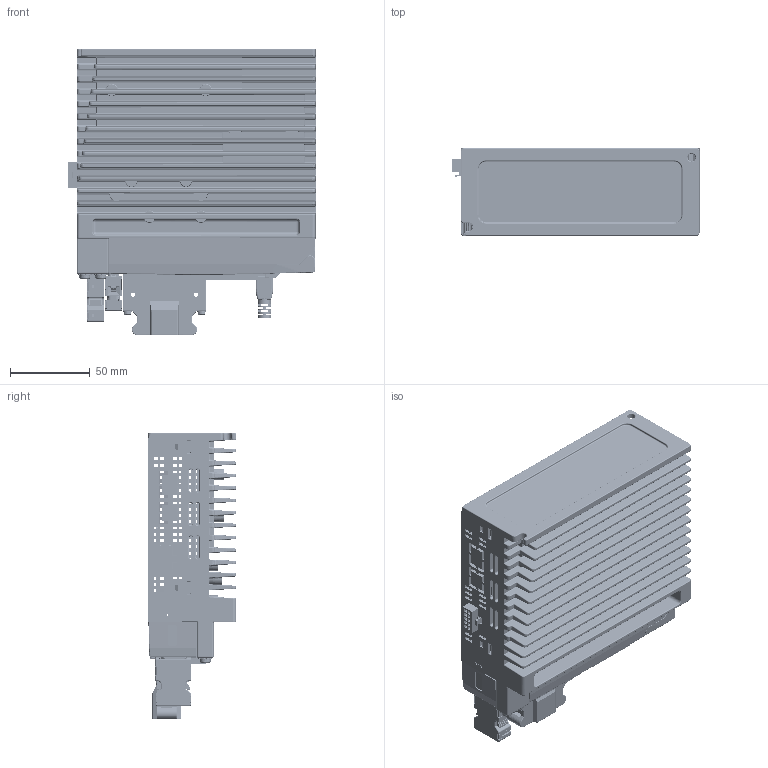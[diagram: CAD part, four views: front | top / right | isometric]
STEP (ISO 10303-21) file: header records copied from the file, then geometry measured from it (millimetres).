
FILE_DESCRIPTION((''),'2;1');
FILE_NAME('M56S-400W_ASM','2025-03-20T14:17:44',('ms27526'),(''),'CREO PARAMETRIC BY PTC INC, 2018100','CREO PARAMETRIC BY PTC INC, 2018100','');
FILE_SCHEMA(('CONFIG_CONTROL_DESIGN'));
Products named in the file (43): 3698201101552_A1; M2ESVAC4M2E00; M3AC-ECX_200W_1_ASM; 700; 800; 600; M2E545991019-M2E_ASM; 4219122000973_1451; USB_; 3698201102238200W000; 2256000; BOARD; 514697808; J1_ASM; 514708608; J3_ASM; PCB_ASM; 4713101003258-A3_0313_ASM; BOARD_1_1; 6361-08FZXXDXMRX_1_1; J9_ASM_1_ASM_1_ASM; 5938414592_1_1; J8_ASM_1_ASM_1_ASM; 5938414976_1_1; J6_ASM_1_ASM_1_ASM; SHIELDING_2_1; INSULATOR_1_1; INSULATOR_2_1_1; 7499021125_ASM_1_ASM_1_ASM; J10_ASM_1_ASM_1_ASM; MINI-5PIN90_1_0001_1_1; 4718405010429_ASM_1_ASM_1_ASM; J4_ASM_1_ASM_1_ASM; PCB_ASM_1_ASM_1_ASM; 4713101005238-A0-241227_ASM_1_A_ASM; R_1; 200WEC_ASM_1_ASM; 200WR_ASM; R0001; 0001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
Assembly tree (45 placements, depth 8):
  M56S-400W_ASM
    M3AC-ECX_200W_1_ASM
      3698201101552_A1  x2
      M2ESVAC4M2E00
    M2E545991019-M2E_ASM
      700
      800
      600
    4219122000973_1451
    USB_
    3698201102238200W000
    2256000
    4713101003258-A3_0313_ASM
      PCB_ASM
        BOARD
        J1_ASM
          514697808
        J3_ASM
          514708608
    200WR_ASM
      200WEC_ASM_1_ASM
        4713101005238-A0-241227_ASM_1_A_ASM
          PCB_ASM_1_ASM_1_ASM
            BOARD_1_1
            J9_ASM_1_ASM_1_ASM
              6361-08FZXXDXMRX_1_1
            J8_ASM_1_ASM_1_ASM
              5938414592_1_1
            J6_ASM_1_ASM_1_ASM
              5938414976_1_1
            J10_ASM_1_ASM_1_ASM
              7499021125_ASM_1_ASM_1_ASM
                SHIELDING_2_1
                INSULATOR_1_1
                INSULATOR_2_1_1  x2
            J4_ASM_1_ASM_1_ASM
              4718405010429_ASM_1_ASM_1_ASM
                MINI-5PIN90_1_0001_1_1
        R_1
    R0001
    0001
    STO
    0002  x2
Bounding box: 155.41 x 55.2 x 180.01 mm (x, y, z)
Volume: 354300.6 mm3; surface area: 332163.1 mm2
Topology: 22 solids, 90 shells, 16853 faces, 47619 edges, 30843 vertices
Faces by surface type: plane 11802, cylinder 3947, bspline 551, extrusion 208, torus 148, cone 103, sphere 94
Entity records: 575459 total; most frequent: CARTESIAN_POINT 143161, ORIENTED_EDGE 92591, DIRECTION 83967, EDGE_CURVE 47065, VECTOR 35901, LINE 35693, VERTEX_POINT 30531, AXIS2_PLACEMENT_3D 24033
